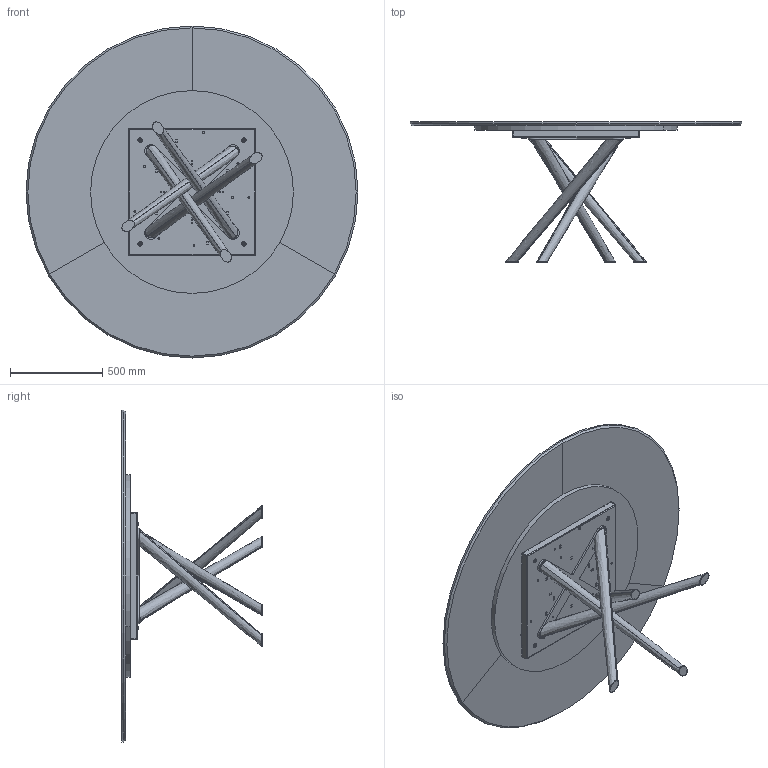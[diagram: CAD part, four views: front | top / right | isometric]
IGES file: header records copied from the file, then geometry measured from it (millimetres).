
Start section: SolidWorks IGES file using analytic representation for surfaces
Global section: file name: Y:\eforma\TECNICO\SOLIDWORKS\E-FORMA\1-TAVOLI\BALY\02 parts\BA13M.IGS; native system: SolidWorks 2022; preprocessor: SolidWorks 2022; author: eforma.tech; date: 240808.083752; units: millimetre
Bounding box: 1800 x 760 x 1800 mm (x, y, z)
Volume: 79041598.2 mm3; surface area: 10080611.3 mm2
Topology: 26 solids, 26 shells, 748 faces, 1910 edges, 1200 vertices
Faces by surface type: revolution 418, plane 322, bspline 8
